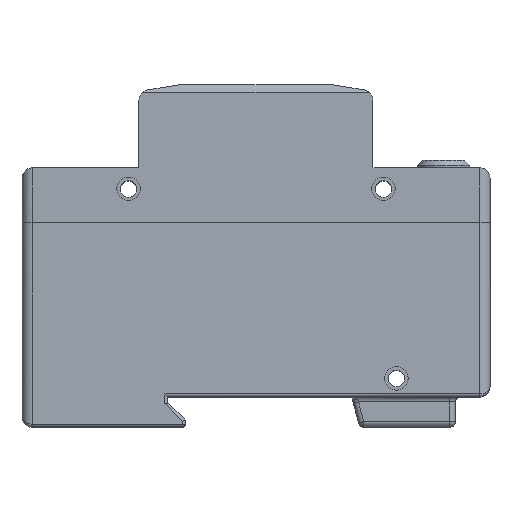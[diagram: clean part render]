
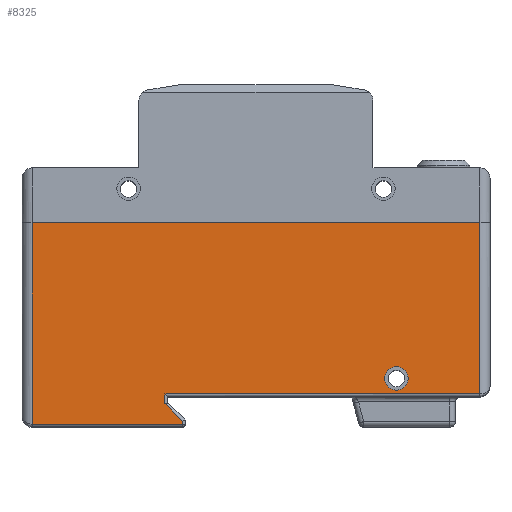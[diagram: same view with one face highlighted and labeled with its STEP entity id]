
A CAD part, top view. The second image highlights one B-rep face of the part: STEP entity #8325.
In plain terms, the highlighted planar face has unit normal (0, 0, 1).
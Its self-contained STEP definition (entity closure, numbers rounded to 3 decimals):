
#306=CIRCLE('',#9039,2.25);
#307=CIRCLE('',#9040,2.25);
#558=FACE_BOUND('',#1383,.T.);
#876=FACE_OUTER_BOUND('',#1382,.T.);
#1382=EDGE_LOOP('',(#6843,#6844,#6845,#6846,#6847,#6848,#6849,#6850));
#1383=EDGE_LOOP('',(#6851,#6852));
#2172=LINE('',#13447,#3057);
#2242=LINE('',#13610,#3127);
#2248=LINE('',#13625,#3133);
#2249=LINE('',#13627,#3134);
#2250=LINE('',#13629,#3135);
#2251=LINE('',#13631,#3136);
#2252=LINE('',#13633,#3137);
#2253=LINE('',#13634,#3138);
#3057=VECTOR('',#10772,10.);
#3127=VECTOR('',#10902,10.);
#3133=VECTOR('',#10916,10.);
#3134=VECTOR('',#10917,10.);
#3135=VECTOR('',#10918,10.);
#3136=VECTOR('',#10919,10.);
#3137=VECTOR('',#10920,10.);
#3138=VECTOR('',#10921,10.);
#3826=VERTEX_POINT('',#13444);
#3827=VERTEX_POINT('',#13446);
#3890=VERTEX_POINT('',#13608);
#3895=VERTEX_POINT('',#13624);
#3896=VERTEX_POINT('',#13626);
#3897=VERTEX_POINT('',#13628);
#3898=VERTEX_POINT('',#13630);
#3899=VERTEX_POINT('',#13632);
#3900=VERTEX_POINT('',#13635);
#3901=VERTEX_POINT('',#13636);
#4843=EDGE_CURVE('',#3827,#3826,#2172,.T.);
#4926=EDGE_CURVE('',#3890,#3826,#2242,.T.);
#4933=EDGE_CURVE('',#3895,#3890,#2248,.T.);
#4934=EDGE_CURVE('',#3896,#3895,#2249,.T.);
#4935=EDGE_CURVE('',#3897,#3896,#2250,.T.);
#4936=EDGE_CURVE('',#3898,#3897,#2251,.T.);
#4937=EDGE_CURVE('',#3899,#3898,#2252,.T.);
#4938=EDGE_CURVE('',#3827,#3899,#2253,.T.);
#4939=EDGE_CURVE('',#3900,#3901,#306,.T.);
#4940=EDGE_CURVE('',#3901,#3900,#307,.T.);
#6843=ORIENTED_EDGE('',*,*,#4843,.T.);
#6844=ORIENTED_EDGE('',*,*,#4926,.F.);
#6845=ORIENTED_EDGE('',*,*,#4933,.F.);
#6846=ORIENTED_EDGE('',*,*,#4934,.F.);
#6847=ORIENTED_EDGE('',*,*,#4935,.F.);
#6848=ORIENTED_EDGE('',*,*,#4936,.F.);
#6849=ORIENTED_EDGE('',*,*,#4937,.F.);
#6850=ORIENTED_EDGE('',*,*,#4938,.F.);
#6851=ORIENTED_EDGE('',*,*,#4939,.T.);
#6852=ORIENTED_EDGE('',*,*,#4940,.T.);
#7926=PLANE('',#9038);
#8325=ADVANCED_FACE('',(#876,#558),#7926,.T.);
#9038=AXIS2_PLACEMENT_3D('',#13623,#10914,#10915);
#9039=AXIS2_PLACEMENT_3D('',#13637,#10922,#10923);
#9040=AXIS2_PLACEMENT_3D('',#13638,#10924,#10925);
#10772=DIRECTION('',(-1.,0.,0.));
#10902=DIRECTION('',(0.,1.,0.));
#10914=DIRECTION('center_axis',(0.,0.,1.));
#10915=DIRECTION('ref_axis',(1.,0.,0.));
#10916=DIRECTION('',(-1.,0.,0.));
#10917=DIRECTION('',(0.,-1.,0.));
#10918=DIRECTION('',(0.718,-0.696,0.));
#10919=DIRECTION('',(0.,-1.,0.));
#10920=DIRECTION('',(-1.,0.,0.));
#10921=DIRECTION('',(0.,-1.,0.));
#10922=DIRECTION('center_axis',(0.,0.,-1.));
#10923=DIRECTION('ref_axis',(1.,0.,0.));
#10924=DIRECTION('center_axis',(0.,0.,-1.));
#10925=DIRECTION('ref_axis',(1.,0.,0.));
#13444=CARTESIAN_POINT('',(-43.,3.4,35.2));
#13446=CARTESIAN_POINT('',(43.,3.4,35.2));
#13447=CARTESIAN_POINT('',(0.046,3.4,35.2));
#13608=CARTESIAN_POINT('',(-43.,-35.3,35.2));
#13610=CARTESIAN_POINT('',(-43.,4.121,35.2));
#13623=CARTESIAN_POINT('Origin',(-0.355,-5.758,35.2));
#13624=CARTESIAN_POINT('',(-14.1,-35.3,35.2));
#13625=CARTESIAN_POINT('',(-22.678,-35.3,35.2));
#13626=CARTESIAN_POINT('',(-14.1,-34.711,35.2));
#13627=CARTESIAN_POINT('',(-14.1,-20.779,35.2));
#13628=CARTESIAN_POINT('',(-17.5,-31.411,35.2));
#13629=CARTESIAN_POINT('',(-17.721,-31.197,35.2));
#13630=CARTESIAN_POINT('',(-17.5,-29.5,35.2));
#13631=CARTESIAN_POINT('',(-17.5,-18.479,35.2));
#13632=CARTESIAN_POINT('',(43.,-29.5,35.2));
#13633=CARTESIAN_POINT('',(18.972,-29.5,35.2));
#13634=CARTESIAN_POINT('',(43.,-17.879,35.2));
#13635=CARTESIAN_POINT('',(29.25,-26.5,35.2));
#13636=CARTESIAN_POINT('',(24.75,-26.5,35.2));
#13637=CARTESIAN_POINT('Origin',(27.,-26.5,35.2));
#13638=CARTESIAN_POINT('Origin',(27.,-26.5,35.2));
